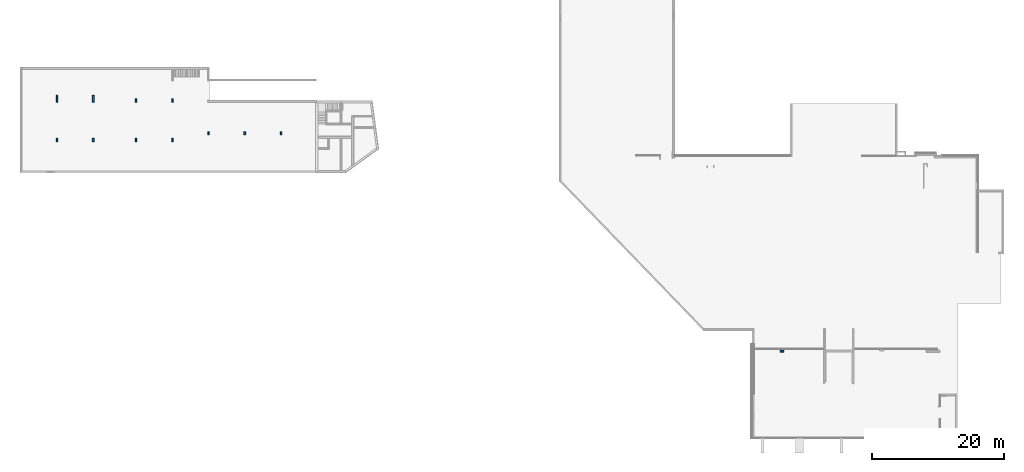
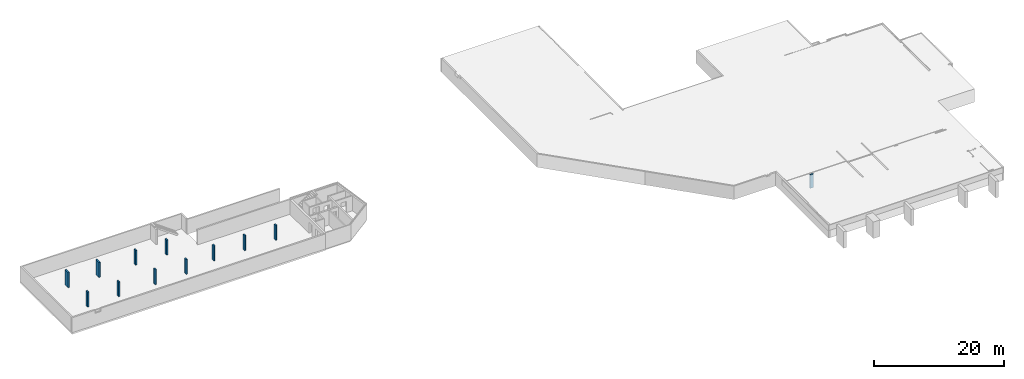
# One storey, part 1 of 10: 12 columns.
"""IFC2X3 building model written with IfcOpenShell, lengths in millimetres."""

from ifc_helpers import new_model, entity, si_unit, converted_unit, frame, frame_2d, origin, origin_with_axes, place, context, subcontext, project, spatial, rectangle, extrude, material, element, save


model = new_model("IFC2X3")

# Units and contexts
model_context = context("Model", 3, precision=1e-05, world=origin())
body_context = subcontext(model_context, "Body", "Model", "MODEL_VIEW")
ifc_project = project(units=[si_unit("LENGTHUNIT", "METRE", prefix="MILLI"), converted_unit("PLANEANGLEUNIT", "DEGREE", entity("IfcPlaneAngleMeasure", 0.0174532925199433), si_unit("PLANEANGLEUNIT", "RADIAN"), dimensions=[0, 0, 0, 0, 0, 0, 0]), si_unit("AREAUNIT", "SQUARE_METRE"), si_unit("VOLUMEUNIT", "CUBIC_METRE")], contexts=[model_context])

# Building, storey
building_placement = place(None, origin())
building = spatial("IfcBuilding", under=ifc_project, at=building_placement, Name="Gebäude", CompositionType="ELEMENT")
storey_placement = place(building_placement, frame((0.0, 0.0, -3205.0), z_axis=(0.0, 0.0, 1.0), x_axis=(1.0, 0.0, 0.0)))
storey = spatial("IfcBuildingStorey", under=building, at=storey_placement, Name="KG.- Grundriss", CompositionType="ELEMENT", Elevation=-3205.0)

# Columns
ifc_material_1 = material(Name="Stb-Stütze")
column_1_placement = place(storey_placement, frame((142242.7928053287, 136024.8877324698, 0.0), z_axis=(0.0, 0.0, 1.0), x_axis=(1.0, 0.0, 0.0)))
element("IfcColumn", 1, at=column_1_placement, inside=storey, material=ifc_material_1, Name="<Unnamed Element>", context=body_context, shape_type="SweptSolid", body=[
    extrude(rectangle(XDim=1000.0, YDim=249.9999972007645, at=frame_2d((-124.9999986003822, 500.0), x_axis=(0.0, 1.0))), origin_with_axes(), (0.0, 0.0, 1.0), 2805.0),
])
ifc_material_2 = material(Name="Stb-Stütze")
column_2_placement = place(storey_placement, frame((136742.7928053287, 136024.8877324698, 0.0), z_axis=(0.0, 0.0, 1.0), x_axis=(1.0, 0.0, 0.0)))
element("IfcColumn", 2, at=column_2_placement, inside=storey, material=ifc_material_2, Name="<Unnamed Element>", context=body_context, shape_type="SweptSolid", body=[
    extrude(rectangle(XDim=1000.0, YDim=249.9999972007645, at=frame_2d((-124.9999986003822, 500.0), x_axis=(0.0, 1.0))), origin_with_axes(), (0.0, 0.0, 1.0), 2805.0),
])
ifc_material_3 = material(Name="Stb-Stütze")
column_3_placement = place(storey_placement, frame((170742.7928053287, 131024.8877324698, 0.0), z_axis=(0.0, 0.0, 1.0), x_axis=(1.0, 0.0, 0.0)))
element("IfcColumn", 3, at=column_3_placement, inside=storey, material=ifc_material_3, Name="<Unnamed Element>", context=body_context, shape_type="SweptSolid", body=[
    extrude(rectangle(XDim=500.0, YDim=249.9999972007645, at=frame_2d((-124.9999986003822, 250.0), x_axis=(0.0, 1.0))), origin_with_axes(), (0.0, 0.0, 1.0), 2805.0),
])
ifc_material_4 = material(Name="Stb-Stütze")
column_4_placement = place(storey_placement, frame((165242.7928053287, 131024.8877324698, 0.0), z_axis=(0.0, 0.0, 1.0), x_axis=(1.0, 0.0, 0.0)))
element("IfcColumn", 4, at=column_4_placement, inside=storey, material=ifc_material_4, Name="<Unnamed Element>", context=body_context, shape_type="SweptSolid", body=[
    extrude(rectangle(XDim=500.0, YDim=249.9999972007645, at=frame_2d((-124.9999986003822, 250.0), x_axis=(0.0, 1.0))), origin_with_axes(), (0.0, 0.0, 1.0), 2805.0),
])
ifc_material_5 = material(Name="Stb-Stütze")
column_5_placement = place(storey_placement, frame((159742.7928053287, 131024.8877324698, 0.0), z_axis=(0.0, 0.0, 1.0), x_axis=(1.0, 0.0, 0.0)))
element("IfcColumn", 5, at=column_5_placement, inside=storey, material=ifc_material_5, Name="<Unnamed Element>", context=body_context, shape_type="SweptSolid", body=[
    extrude(rectangle(XDim=500.0, YDim=249.9999972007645, at=frame_2d((-124.9999986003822, 250.0), x_axis=(0.0, 1.0))), origin_with_axes(), (0.0, 0.0, 1.0), 2805.0),
])
ifc_material_6 = material(Name="Stb-Stütze")
column_6_placement = place(storey_placement, frame((154242.7928053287, 136024.8877324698, 0.0), z_axis=(0.0, 0.0, 1.0), x_axis=(1.0, 0.0, 0.0)))
element("IfcColumn", 6, at=column_6_placement, inside=storey, material=ifc_material_6, Name="<Unnamed Element>", context=body_context, shape_type="SweptSolid", body=[
    extrude(rectangle(XDim=500.0, YDim=249.9999972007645, at=frame_2d((-124.9999986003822, 250.0), x_axis=(0.0, 1.0))), origin_with_axes(), (0.0, 0.0, 1.0), 2805.0),
])
ifc_material_7 = material(Name="Stb-Stütze")
column_7_placement = place(storey_placement, frame((154242.7928053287, 130024.8877324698, 0.0), z_axis=(0.0, 0.0, 1.0), x_axis=(1.0, 0.0, 0.0)))
element("IfcColumn", 7, at=column_7_placement, inside=storey, material=ifc_material_7, Name="<Unnamed Element>", context=body_context, shape_type="SweptSolid", body=[
    extrude(rectangle(XDim=500.0, YDim=249.9999972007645, at=frame_2d((-124.9999986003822, 250.0), x_axis=(0.0, 1.0))), origin_with_axes(), (0.0, 0.0, 1.0), 2805.0),
])
ifc_material_8 = material(Name="Stb-Stütze")
column_8_placement = place(storey_placement, frame((148742.7928053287, 136024.8877324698, 0.0), z_axis=(0.0, 0.0, 1.0), x_axis=(1.0, 0.0, 0.0)))
element("IfcColumn", 8, at=column_8_placement, inside=storey, material=ifc_material_8, Name="<Unnamed Element>", context=body_context, shape_type="SweptSolid", body=[
    extrude(rectangle(XDim=500.0, YDim=249.9999972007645, at=frame_2d((-124.9999986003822, 250.0), x_axis=(0.0, 1.0))), origin_with_axes(), (0.0, 0.0, 1.0), 2805.0),
])
ifc_material_9 = material(Name="Stb-Stütze")
column_9_placement = place(storey_placement, frame((148742.7928053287, 130024.8877324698, 0.0), z_axis=(0.0, 0.0, 1.0), x_axis=(1.0, 0.0, 0.0)))
element("IfcColumn", 9, at=column_9_placement, inside=storey, material=ifc_material_9, Name="<Unnamed Element>", context=body_context, shape_type="SweptSolid", body=[
    extrude(rectangle(XDim=500.0, YDim=249.9999972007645, at=frame_2d((-124.9999986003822, 250.0), x_axis=(0.0, 1.0))), origin_with_axes(), (0.0, 0.0, 1.0), 2805.0),
])
ifc_material_10 = material(Name="Stb-Stütze")
column_10_placement = place(storey_placement, frame((142242.7928053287, 130024.8877324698, 0.0), z_axis=(0.0, 0.0, 1.0), x_axis=(1.0, 0.0, 0.0)))
element("IfcColumn", 10, at=column_10_placement, inside=storey, material=ifc_material_10, Name="<Unnamed Element>", context=body_context, shape_type="SweptSolid", body=[
    extrude(rectangle(XDim=500.0, YDim=249.9999972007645, at=frame_2d((-124.9999986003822, 250.0), x_axis=(0.0, 1.0))), origin_with_axes(), (0.0, 0.0, 1.0), 2805.0),
])
ifc_material_11 = material(Name="Stb-Stütze")
column_11_placement = place(storey_placement, frame((136742.7928053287, 130024.8877324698, 0.0), z_axis=(0.0, 0.0, 1.0), x_axis=(1.0, 0.0, 0.0)))
element("IfcColumn", 11, at=column_11_placement, inside=storey, material=ifc_material_11, Name="<Unnamed Element>", context=body_context, shape_type="SweptSolid", body=[
    extrude(rectangle(XDim=500.0, YDim=249.9999972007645, at=frame_2d((-124.9999986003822, 250.0), x_axis=(0.0, 1.0))), origin_with_axes(), (0.0, 0.0, 1.0), 2805.0),
])
ifc_material_12 = material(Name="Stb-Stütze")
column_12_placement = place(storey_placement, frame((246372.7052904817, 98070.06618296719, 3205.0), z_axis=(0.0, 0.0, 1.0), x_axis=(1.0, 0.0, 0.0)))
element("IfcColumn", 12, at=column_12_placement, inside=storey, material=ifc_material_12, Name="<Unnamed Element>", context=body_context, shape_type="SweptSolid", body=[
    extrude(rectangle(XDim=600.0, YDim=250.0, at=frame_2d((300.000000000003, 124.9999999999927), x_axis=(1.0, -2.425319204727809e-14))), origin_with_axes(), (0.0, 0.0, 1.0), 2500.0),
])

save(model, "model.ifc")
